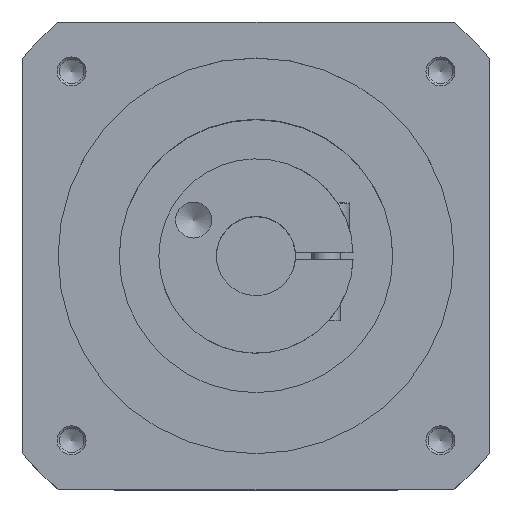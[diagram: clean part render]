
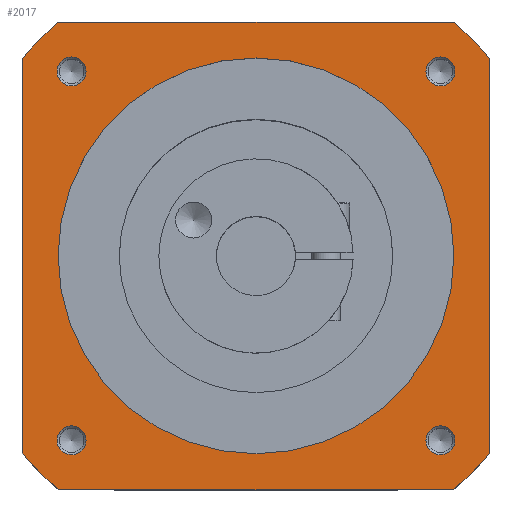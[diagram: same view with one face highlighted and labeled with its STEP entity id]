
A CAD part, top view. The second image highlights one B-rep face of the part: STEP entity #2017.
In plain terms, the highlighted planar face has unit normal (0, 0, 1).
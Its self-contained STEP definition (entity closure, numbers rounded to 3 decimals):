
#45=PLANE('',#2301);
#90=FACE_BOUND('',#354,.T.);
#91=FACE_BOUND('',#355,.T.);
#92=FACE_BOUND('',#356,.T.);
#93=FACE_BOUND('',#357,.T.);
#94=FACE_BOUND('',#358,.T.);
#226=FACE_OUTER_BOUND('',#353,.T.);
#353=EDGE_LOOP('',(#1771,#1772,#1773,#1774,#1775,#1776,#1777,#1778));
#354=EDGE_LOOP('',(#1779,#1780));
#355=EDGE_LOOP('',(#1781,#1782));
#356=EDGE_LOOP('',(#1783,#1784));
#357=EDGE_LOOP('',(#1785,#1786));
#358=EDGE_LOOP('',(#1787,#1788));
#478=LINE('',#3605,#603);
#482=LINE('',#3622,#607);
#486=LINE('',#3645,#611);
#490=LINE('',#3665,#615);
#603=VECTOR('',#2863,1000.);
#607=VECTOR('',#2875,1000.);
#611=VECTOR('',#2887,1000.);
#615=VECTOR('',#2899,1000.);
#646=CIRCLE('',#2068,4.025);
#647=CIRCLE('',#2069,4.025);
#652=CIRCLE('',#2077,4.025);
#653=CIRCLE('',#2078,4.025);
#658=CIRCLE('',#2086,4.025);
#659=CIRCLE('',#2087,4.025);
#664=CIRCLE('',#2095,4.025);
#665=CIRCLE('',#2096,4.025);
#705=CIRCLE('',#2149,55.);
#706=CIRCLE('',#2150,55.);
#792=CIRCLE('',#2288,85.);
#794=CIRCLE('',#2292,85.);
#796=CIRCLE('',#2296,85.);
#798=CIRCLE('',#2300,85.);
#807=VERTEX_POINT('',#3008);
#808=VERTEX_POINT('',#3010);
#814=VERTEX_POINT('',#3027);
#815=VERTEX_POINT('',#3029);
#821=VERTEX_POINT('',#3046);
#822=VERTEX_POINT('',#3048);
#828=VERTEX_POINT('',#3065);
#829=VERTEX_POINT('',#3067);
#879=VERTEX_POINT('',#3263);
#880=VERTEX_POINT('',#3265);
#978=VERTEX_POINT('',#3590);
#983=VERTEX_POINT('',#3603);
#985=VERTEX_POINT('',#3609);
#989=VERTEX_POINT('',#3620);
#991=VERTEX_POINT('',#3629);
#995=VERTEX_POINT('',#3643);
#997=VERTEX_POINT('',#3649);
#1001=VERTEX_POINT('',#3663);
#1019=EDGE_CURVE('',#807,#808,#646,.T.);
#1020=EDGE_CURVE('',#808,#807,#647,.T.);
#1028=EDGE_CURVE('',#814,#815,#652,.T.);
#1029=EDGE_CURVE('',#815,#814,#653,.T.);
#1037=EDGE_CURVE('',#821,#822,#658,.T.);
#1038=EDGE_CURVE('',#822,#821,#659,.T.);
#1046=EDGE_CURVE('',#828,#829,#664,.T.);
#1047=EDGE_CURVE('',#829,#828,#665,.T.);
#1107=EDGE_CURVE('',#879,#880,#705,.T.);
#1108=EDGE_CURVE('',#880,#879,#706,.T.);
#1254=EDGE_CURVE('',#978,#983,#478,.T.);
#1257=EDGE_CURVE('',#983,#985,#792,.T.);
#1261=EDGE_CURVE('',#985,#989,#482,.T.);
#1265=EDGE_CURVE('',#989,#991,#794,.T.);
#1270=EDGE_CURVE('',#995,#991,#486,.T.);
#1273=EDGE_CURVE('',#995,#997,#796,.T.);
#1278=EDGE_CURVE('',#1001,#997,#490,.T.);
#1280=EDGE_CURVE('',#1001,#978,#798,.T.);
#1771=ORIENTED_EDGE('',*,*,#1254,.T.);
#1772=ORIENTED_EDGE('',*,*,#1257,.T.);
#1773=ORIENTED_EDGE('',*,*,#1261,.T.);
#1774=ORIENTED_EDGE('',*,*,#1265,.T.);
#1775=ORIENTED_EDGE('',*,*,#1270,.F.);
#1776=ORIENTED_EDGE('',*,*,#1273,.T.);
#1777=ORIENTED_EDGE('',*,*,#1278,.F.);
#1778=ORIENTED_EDGE('',*,*,#1280,.T.);
#1779=ORIENTED_EDGE('',*,*,#1020,.F.);
#1780=ORIENTED_EDGE('',*,*,#1019,.F.);
#1781=ORIENTED_EDGE('',*,*,#1029,.F.);
#1782=ORIENTED_EDGE('',*,*,#1028,.F.);
#1783=ORIENTED_EDGE('',*,*,#1038,.F.);
#1784=ORIENTED_EDGE('',*,*,#1037,.F.);
#1785=ORIENTED_EDGE('',*,*,#1047,.F.);
#1786=ORIENTED_EDGE('',*,*,#1046,.F.);
#1787=ORIENTED_EDGE('',*,*,#1108,.F.);
#1788=ORIENTED_EDGE('',*,*,#1107,.F.);
#2017=ADVANCED_FACE('',(#226,#90,#91,#92,#93,#94),#45,.T.);
#2068=AXIS2_PLACEMENT_3D('',#3011,#2344,#2345);
#2069=AXIS2_PLACEMENT_3D('',#3012,#2346,#2347);
#2077=AXIS2_PLACEMENT_3D('',#3030,#2365,#2366);
#2078=AXIS2_PLACEMENT_3D('',#3031,#2367,#2368);
#2086=AXIS2_PLACEMENT_3D('',#3049,#2386,#2387);
#2087=AXIS2_PLACEMENT_3D('',#3050,#2388,#2389);
#2095=AXIS2_PLACEMENT_3D('',#3068,#2407,#2408);
#2096=AXIS2_PLACEMENT_3D('',#3069,#2409,#2410);
#2149=AXIS2_PLACEMENT_3D('',#3266,#2532,#2533);
#2150=AXIS2_PLACEMENT_3D('',#3267,#2534,#2535);
#2288=AXIS2_PLACEMENT_3D('',#3611,#2869,#2870);
#2292=AXIS2_PLACEMENT_3D('',#3631,#2881,#2882);
#2296=AXIS2_PLACEMENT_3D('',#3651,#2893,#2894);
#2300=AXIS2_PLACEMENT_3D('',#3668,#2904,#2905);
#2301=AXIS2_PLACEMENT_3D('',#3669,#2906,#2907);
#2344=DIRECTION('center_axis',(0.,0.,1.));
#2345=DIRECTION('ref_axis',(1.,0.,0.));
#2346=DIRECTION('center_axis',(0.,0.,1.));
#2347=DIRECTION('ref_axis',(1.,0.,0.));
#2365=DIRECTION('center_axis',(0.,0.,1.));
#2366=DIRECTION('ref_axis',(1.,0.,0.));
#2367=DIRECTION('center_axis',(0.,0.,1.));
#2368=DIRECTION('ref_axis',(1.,0.,0.));
#2386=DIRECTION('center_axis',(0.,0.,1.));
#2387=DIRECTION('ref_axis',(1.,0.,0.));
#2388=DIRECTION('center_axis',(0.,0.,1.));
#2389=DIRECTION('ref_axis',(1.,0.,0.));
#2407=DIRECTION('center_axis',(0.,0.,1.));
#2408=DIRECTION('ref_axis',(1.,0.,0.));
#2409=DIRECTION('center_axis',(0.,0.,1.));
#2410=DIRECTION('ref_axis',(1.,0.,0.));
#2532=DIRECTION('center_axis',(0.,0.,1.));
#2533=DIRECTION('ref_axis',(1.,0.,0.));
#2534=DIRECTION('center_axis',(0.,0.,1.));
#2535=DIRECTION('ref_axis',(1.,0.,0.));
#2863=DIRECTION('',(0.,1.,0.));
#2869=DIRECTION('center_axis',(0.,0.,1.));
#2870=DIRECTION('ref_axis',(1.,0.,0.));
#2875=DIRECTION('',(-1.,0.,0.));
#2881=DIRECTION('center_axis',(0.,0.,1.));
#2882=DIRECTION('ref_axis',(1.,0.,0.));
#2887=DIRECTION('',(0.,1.,0.));
#2893=DIRECTION('center_axis',(0.,0.,1.));
#2894=DIRECTION('ref_axis',(1.,0.,0.));
#2899=DIRECTION('',(-1.,0.,0.));
#2904=DIRECTION('center_axis',(0.,0.,1.));
#2905=DIRECTION('ref_axis',(1.,0.,0.));
#2906=DIRECTION('center_axis',(0.,0.,1.));
#2907=DIRECTION('ref_axis',(1.,0.,0.));
#3008=CARTESIAN_POINT('',(47.24,51.265,147.5));
#3010=CARTESIAN_POINT('',(55.29,51.265,147.5));
#3011=CARTESIAN_POINT('Origin',(51.265,51.265,147.5));
#3012=CARTESIAN_POINT('Origin',(51.265,51.265,147.5));
#3027=CARTESIAN_POINT('',(47.24,-51.265,147.5));
#3029=CARTESIAN_POINT('',(55.29,-51.265,147.5));
#3030=CARTESIAN_POINT('Origin',(51.265,-51.265,147.5));
#3031=CARTESIAN_POINT('Origin',(51.265,-51.265,147.5));
#3046=CARTESIAN_POINT('',(-55.29,-51.265,147.5));
#3048=CARTESIAN_POINT('',(-47.24,-51.265,147.5));
#3049=CARTESIAN_POINT('Origin',(-51.265,-51.265,147.5));
#3050=CARTESIAN_POINT('Origin',(-51.265,-51.265,147.5));
#3065=CARTESIAN_POINT('',(-55.29,51.265,147.5));
#3067=CARTESIAN_POINT('',(-47.24,51.265,147.5));
#3068=CARTESIAN_POINT('Origin',(-51.265,51.265,147.5));
#3069=CARTESIAN_POINT('Origin',(-51.265,51.265,147.5));
#3263=CARTESIAN_POINT('',(-55.,0.,147.5));
#3265=CARTESIAN_POINT('',(55.,0.,147.5));
#3266=CARTESIAN_POINT('Origin',(0.,0.,147.5));
#3267=CARTESIAN_POINT('Origin',(0.,0.,147.5));
#3590=CARTESIAN_POINT('',(65.,-54.772,147.5));
#3603=CARTESIAN_POINT('',(65.,54.772,147.5));
#3605=CARTESIAN_POINT('',(65.,0.,147.5));
#3609=CARTESIAN_POINT('',(54.772,65.,147.5));
#3611=CARTESIAN_POINT('Origin',(0.,0.,147.5));
#3620=CARTESIAN_POINT('',(-54.772,65.,147.5));
#3622=CARTESIAN_POINT('',(0.,65.,147.5));
#3629=CARTESIAN_POINT('',(-65.,54.772,147.5));
#3631=CARTESIAN_POINT('Origin',(0.,0.,147.5));
#3643=CARTESIAN_POINT('',(-65.,-54.772,147.5));
#3645=CARTESIAN_POINT('',(-65.,0.,147.5));
#3649=CARTESIAN_POINT('',(-54.772,-65.,147.5));
#3651=CARTESIAN_POINT('Origin',(0.,0.,147.5));
#3663=CARTESIAN_POINT('',(54.772,-65.,147.5));
#3665=CARTESIAN_POINT('',(0.,-65.,147.5));
#3668=CARTESIAN_POINT('Origin',(0.,0.,147.5));
#3669=CARTESIAN_POINT('Origin',(0.,0.,147.5));
